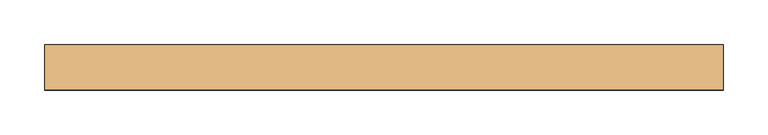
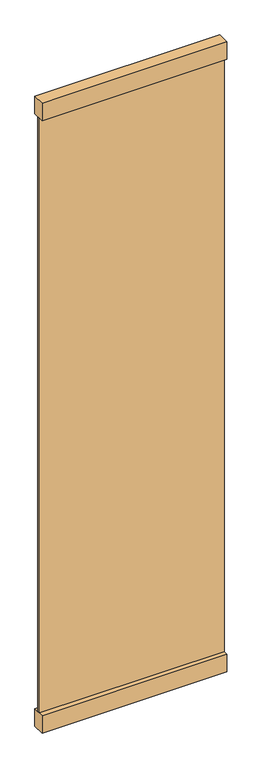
"""IFC4 building model written with IfcOpenShell, lengths in millimetres: door geometry, Planitar - Swap_Full Glass_Panel_D2 : Planitar - Swap_Full Glass_Panel_D2."""

from ifc_helpers import new_model, si_unit, frame, origin, origin_with_axes, place, context, project, spatial, polyline, outline, extrude, source, transform, mapped, element, save


def door_70c034fc(model_context):
    return source(origin(), model_context, "Body", "SweptSolid", [
        extrude(outline(polyline([(381.0, -25.4), (-381.0, -25.4), (-381.0, 25.4), (381.0, 25.4), (381.0, -25.4)])), origin_with_axes(), (0.0, 0.0, 1.0), 76.2),
        extrude(outline(polyline([(381.0, -25.4), (-381.0, -25.4), (-381.0, 25.4), (381.0, 25.4), (381.0, -25.4)])), frame((0.0, 0.0, 2667.0), z_axis=(0.0, 0.0, 1.0), x_axis=(1.0, 0.0, 0.0)), (0.0, 0.0, 1.0), 76.2),
        extrude(outline(polyline([(381.0, -6.35), (-381.0, -6.35), (-381.0, 6.35), (381.0, 6.35), (381.0, -6.35)])), frame((0.0, 0.0, 76.2), z_axis=(0.0, 0.0, 1.0), x_axis=(1.0, 0.0, 0.0)), (0.0, 0.0, 1.0), 2590.8),
    ])


if __name__ == "__main__":
    model = new_model("IFC4")
    model_context = context("Model", 3, world=origin())
    ifc_project = project(units=[si_unit("LENGTHUNIT", "METRE", prefix="MILLI")], contexts=[model_context])
    site = spatial("IfcSite", under=ifc_project)
    building = spatial("IfcBuilding", under=site)
    placement = place(None, origin())
    door_shape = door_70c034fc(model_context)
    element("IfcDoor", 1, ObjectType="Planitar - Swap_Full Glass_Panel_D2 : Planitar - Swap_Full Glass_Panel_D2", at=placement, inside=building, context=model_context, shape_type="MappedRepresentation", body=[
        mapped(door_shape, transform((0.0, 0.0, 0.0), x_axis=(1.0, 0.0, 0.0), y_axis=(0.0, 1.0, 0.0), z_axis=(0.0, 0.0, 1.0))),
    ])
    save(model, "model.ifc")
